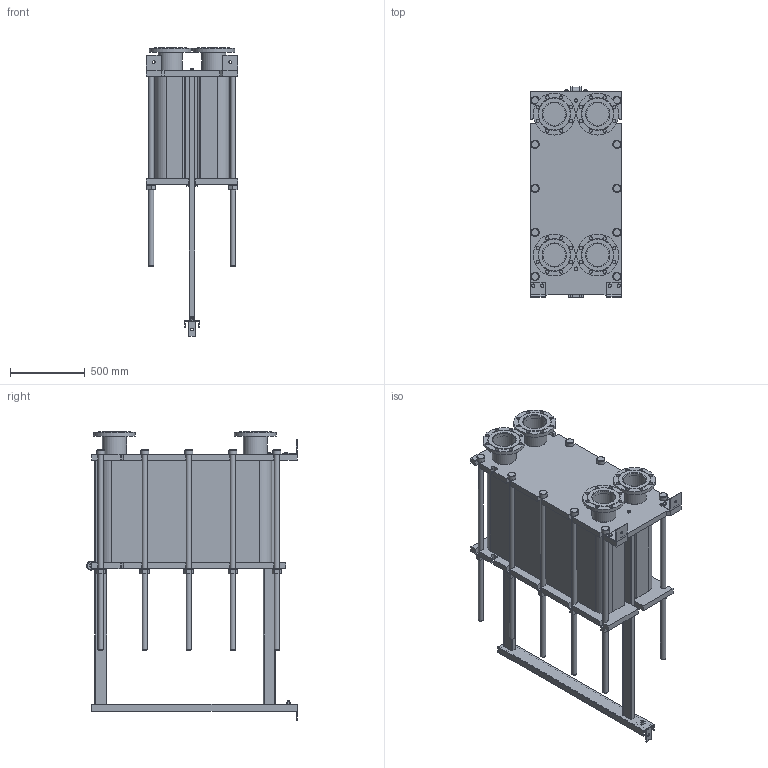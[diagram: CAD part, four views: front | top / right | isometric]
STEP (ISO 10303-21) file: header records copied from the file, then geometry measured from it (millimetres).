
FILE_DESCRIPTION(/* description */ (''),/* implementation_level */ '2;1');
FILE_NAME(/* name */ 'C:\Users\zhuro\Desktop\ENCO\TO\ЭН-041\ЭН-0,5-041-198-1.stp',/* time_stamp */ '2022-06-06T11:06:11+03:00',/* author */ ('zhuro'),/* organization */ (''),/* preprocessor_version */ 'ST-DEVELOPER v18.1',/* originating_system */ 'Autodesk Inventor 2022',/* authorisation */ '');
FILE_SCHEMA (('AUTOMOTIVE_DESIGN { 1 0 10303 214 3 1 1 }'));
Length unit declared in the file: millimetre
Products named in the file (1): ЭН-0,5-041-198-1
Bounding box: 610 x 1406.5 x 1925 mm (x, y, z)
Volume: 471560767.8 mm3; surface area: 11185330.8 mm2
Topology: 52 solids, 52 shells, 711 faces, 1696 edges, 1094 vertices
Faces by surface type: plane 487, cylinder 177, cone 41, torus 6
Full cylindrical faces by diameter (mm): 8 x4, 10 x2, 16 x8, 18 x3, 22 x32, 36 x24, 50 x1, 54 x10, 60 x12, 151 x4, 161 x8, 280 x4
Entity records: 22667 total; most frequent: CARTESIAN_POINT 5230, DIRECTION 3644, ORIENTED_EDGE 3392, EDGE_CURVE 1696, AXIS2_PLACEMENT_3D 1272, LINE 1100, VECTOR 1100, VERTEX_POINT 1094
